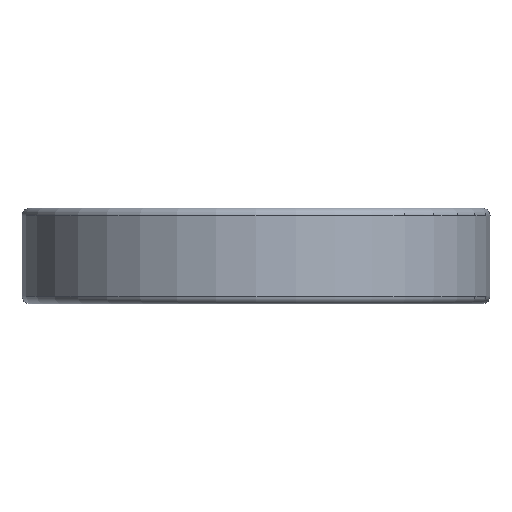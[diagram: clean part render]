
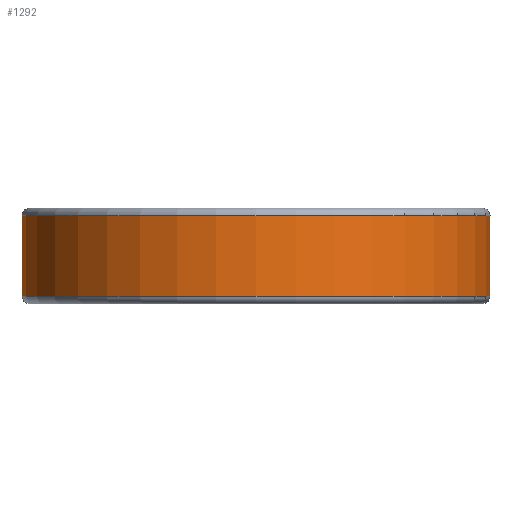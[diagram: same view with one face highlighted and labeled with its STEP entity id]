
A CAD part, left-side view. The second image highlights one B-rep face of the part: STEP entity #1292.
In plain terms, the highlighted cylindrical face has radius 46.5 mm (diameter 93 mm), a partial arc.
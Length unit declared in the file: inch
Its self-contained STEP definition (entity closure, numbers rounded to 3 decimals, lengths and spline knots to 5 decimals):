
#120=CARTESIAN_POINT('',(1.82964,-0.0625,
0.05984));
#129=DIRECTION('',(0.,0.,1.));
#130=VECTOR('',#129,0.62836);
#131=CARTESIAN_POINT('',(1.82964,-0.0625,
0.05984));
#132=LINE('',#131,#130);
#140=CARTESIAN_POINT('',(1.82964,-0.0625,
0.68819));
#201=CARTESIAN_POINT('',(1.82964,0.0625,0.68819));
#210=DIRECTION('',(0.,0.,-1.));
#211=VECTOR('',#210,0.62836);
#212=CARTESIAN_POINT('',(1.82964,0.0625,0.68819));
#213=LINE('',#212,#211);
#221=CARTESIAN_POINT('',(1.82964,0.0625,0.05984));
#345=CARTESIAN_POINT('',(0.,0.,0.68819));
#346=DIRECTION('',(0.,0.,1.));
#347=DIRECTION('',(0.999,0.034,0.));
#348=AXIS2_PLACEMENT_3D('',#345,#346,#347);
#350=DIRECTION('',(0.,0.,1.));
#351=VECTOR('',#350,0.05204);
#352=CARTESIAN_POINT('',(1.78847,0.391,0.21719));
#353=LINE('',#352,#351);
#354=CARTESIAN_POINT('',(1.555,0.96616,0.09277));
#355=CARTESIAN_POINT('',(1.57712,0.93056,0.09277));
#356=CARTESIAN_POINT('',(1.62164,0.85349,0.09795));
#357=CARTESIAN_POINT('',(1.68624,0.71852,0.12206));
#358=CARTESIAN_POINT('',(1.74398,0.56542,0.16178));
#359=CARTESIAN_POINT('',(1.77529,0.45125,0.19758));
#360=CARTESIAN_POINT('',(1.78847,0.391,0.21719));
#362=CARTESIAN_POINT('',(1.555,0.96616,0.09277));
#363=CARTESIAN_POINT('',(1.53655,0.99585,0.09277));
#364=CARTESIAN_POINT('',(1.49988,1.05111,0.09638));
#365=CARTESIAN_POINT('',(1.4468,1.12276,0.11245));
#366=CARTESIAN_POINT('',(1.39804,1.18264,0.13849));
#367=CARTESIAN_POINT('',(1.35587,1.23051,0.17299));
#368=CARTESIAN_POINT('',(1.32203,1.26661,0.21363));
#369=CARTESIAN_POINT('',(1.29729,1.29182,0.25783));
#370=CARTESIAN_POINT('',(1.28128,1.30763,0.30368));
#371=CARTESIAN_POINT('',(1.27335,1.31532,0.35105));
#372=CARTESIAN_POINT('',(1.27348,1.3152,0.39862));
#373=CARTESIAN_POINT('',(1.28167,1.30725,0.44582));
#374=CARTESIAN_POINT('',(1.29786,1.29125,0.49143));
#375=CARTESIAN_POINT('',(1.32269,1.26593,0.53534));
#376=CARTESIAN_POINT('',(1.35654,1.22977,0.57568));
#377=CARTESIAN_POINT('',(1.39862,1.18195,0.60991));
#378=CARTESIAN_POINT('',(1.44723,1.12219,0.63574));
#379=CARTESIAN_POINT('',(1.50011,1.05077,0.65168));
#380=CARTESIAN_POINT('',(1.53663,0.99573,0.65527));
#381=CARTESIAN_POINT('',(1.555,0.96616,0.65527));
#383=CARTESIAN_POINT('',(1.78847,0.391,0.53084));
#384=CARTESIAN_POINT('',(1.77529,0.45125,0.55045));
#385=CARTESIAN_POINT('',(1.74398,0.56541,0.58626));
#386=CARTESIAN_POINT('',(1.68624,0.71852,0.62597));
#387=CARTESIAN_POINT('',(1.62164,0.85349,0.65006));
#388=CARTESIAN_POINT('',(1.57712,0.93056,0.65527));
#389=CARTESIAN_POINT('',(1.555,0.96616,0.65527));
#391=DIRECTION('',(0.,0.,1.));
#392=VECTOR('',#391,0.05204);
#393=CARTESIAN_POINT('',(1.78847,0.391,0.47881));
#394=LINE('',#393,#392);
#395=DIRECTION('',(0.,0.,-1.));
#396=VECTOR('',#395,0.20958);
#397=CARTESIAN_POINT('',(1.78847,0.391,0.47881));
#398=LINE('',#397,#396);
#614=CARTESIAN_POINT('',(0.,0.,0.05984));
#615=DIRECTION('',(0.,0.,-1.));
#616=DIRECTION('',(0.999,-0.034,0.));
#617=AXIS2_PLACEMENT_3D('',#614,#615,#616);
#667=CARTESIAN_POINT('',(1.555,-0.96616,0.23802));
#668=CARTESIAN_POINT('',(1.5455,-0.98146,
0.23802));
#669=CARTESIAN_POINT('',(1.52688,-1.01042,0.24));
#670=CARTESIAN_POINT('',(1.50077,-1.04873,0.24832));
#671=CARTESIAN_POINT('',(1.47716,-1.08164,0.26143));
#672=CARTESIAN_POINT('',(1.45683,-1.1088,0.27866));
#673=CARTESIAN_POINT('',(1.4404,-1.13001,0.29924));
#674=CARTESIAN_POINT('',(1.42832,-1.14519,0.32232));
#675=CARTESIAN_POINT('',(1.4208,-1.15449,0.34725));
#676=CARTESIAN_POINT('',(1.41813,-1.15772,0.37366));
#677=CARTESIAN_POINT('',(1.42066,-1.15466,0.40004));
#678=CARTESIAN_POINT('',(1.42798,-1.14561,0.42482));
#679=CARTESIAN_POINT('',(1.43981,-1.13077,0.44788));
#680=CARTESIAN_POINT('',(1.45614,-1.10971,0.46867));
#681=CARTESIAN_POINT('',(1.47659,-1.08244,0.48623));
#682=CARTESIAN_POINT('',(1.50042,-1.04923,0.49959));
#683=CARTESIAN_POINT('',(1.52677,-1.01058,0.50802));
#684=CARTESIAN_POINT('',(1.54547,-0.9815,
0.51002));
#685=CARTESIAN_POINT('',(1.555,-0.96616,0.51002));
#687=CARTESIAN_POINT('',(1.555,-0.96616,0.51002));
#688=CARTESIAN_POINT('',(1.564,-0.95167,
0.51002));
#689=CARTESIAN_POINT('',(1.58085,-0.92365,
0.50825));
#690=CARTESIAN_POINT('',(1.6027,-0.88513,
0.50199));
#691=CARTESIAN_POINT('',(1.62153,-0.85004,
0.49319));
#692=CARTESIAN_POINT('',(1.63769,-0.81844,
0.48253));
#693=CARTESIAN_POINT('',(1.65147,-0.79023,
0.47044));
#694=CARTESIAN_POINT('',(1.66314,-0.76528,
0.45711));
#695=CARTESIAN_POINT('',(1.67291,-0.74365,
0.44254));
#696=CARTESIAN_POINT('',(1.68081,-0.72559,
0.4267));
#697=CARTESIAN_POINT('',(1.68668,-0.71173,
0.40959));
#698=CARTESIAN_POINT('',(1.69022,-0.70336,
0.39194));
#699=CARTESIAN_POINT('',(1.6914,-0.70059,
0.37385));
#700=CARTESIAN_POINT('',(1.69017,-0.70346,
0.3558));
#701=CARTESIAN_POINT('',(1.68661,-0.71188,
0.33819));
#702=CARTESIAN_POINT('',(1.68072,-0.7258,
0.32113));
#703=CARTESIAN_POINT('',(1.67281,-0.74386,
0.30533));
#704=CARTESIAN_POINT('',(1.66305,-0.76549,
0.2908));
#705=CARTESIAN_POINT('',(1.65137,-0.79041,
0.2775));
#706=CARTESIAN_POINT('',(1.63761,-0.8186,
0.26544));
#707=CARTESIAN_POINT('',(1.62147,-0.85018,
0.25481));
#708=CARTESIAN_POINT('',(1.60264,-0.88523,
0.24602));
#709=CARTESIAN_POINT('',(1.58081,-0.9237,
0.23978));
#710=CARTESIAN_POINT('',(1.56399,-0.95169,
0.23802));
#711=CARTESIAN_POINT('',(1.555,-0.96616,0.23802));
#749=VERTEX_POINT('',#120);
#750=VERTEX_POINT('',#140);
#765=VERTEX_POINT('',#201);
#767=VERTEX_POINT('',#221);
#788=CARTESIAN_POINT('',(1.78847,0.391,0.21719));
#789=CARTESIAN_POINT('',(1.78847,0.391,0.26923));
#790=VERTEX_POINT('',#788);
#791=VERTEX_POINT('',#789);
#792=VERTEX_POINT('',#354);
#793=VERTEX_POINT('',#383);
#794=VERTEX_POINT('',#389);
#795=CARTESIAN_POINT('',(1.78847,0.391,0.47881));
#796=VERTEX_POINT('',#795);
#797=VERTEX_POINT('',#667);
#798=VERTEX_POINT('',#685);
#1260=CARTESIAN_POINT('',(0.,0.,0.74803));
#1261=DIRECTION('',(0.,0.,-1.));
#1262=DIRECTION('',(-1.,0.,0.));
#1263=AXIS2_PLACEMENT_3D('',#1260,#1261,#1262);
#1264=CYLINDRICAL_SURFACE('',#1263,1.83071);
#1266=ORIENTED_EDGE('',*,*,#1265,.T.);
#1267=ORIENTED_EDGE('',*,*,#1052,.F.);
#1268=ORIENTED_EDGE('',*,*,#1244,.T.);
#1269=ORIENTED_EDGE('',*,*,#971,.F.);
#1270=EDGE_LOOP('',(#1266,#1267,#1268,#1269));
#1271=FACE_OUTER_BOUND('',#1270,.F.);
#1273=ORIENTED_EDGE('',*,*,#1272,.F.);
#1275=ORIENTED_EDGE('',*,*,#1274,.F.);
#1277=ORIENTED_EDGE('',*,*,#1276,.T.);
#1279=ORIENTED_EDGE('',*,*,#1278,.F.);
#1281=ORIENTED_EDGE('',*,*,#1280,.F.);
#1283=ORIENTED_EDGE('',*,*,#1282,.T.);
#1284=EDGE_LOOP('',(#1273,#1275,#1277,#1279,#1281,#1283));
#1285=FACE_BOUND('',#1284,.F.);
#1287=ORIENTED_EDGE('',*,*,#1286,.F.);
#1289=ORIENTED_EDGE('',*,*,#1288,.F.);
#1290=EDGE_LOOP('',(#1287,#1289));
#1291=FACE_BOUND('',#1290,.F.);
#349=CIRCLE('',#348,1.83071);
#361=B_SPLINE_CURVE_WITH_KNOTS('',3,(#354,#355,#356,#357,#358,#359,#360),
.UNSPECIFIED.,.F.,.F.,(4,1,1,1,4),(0.,0.25,0.5,0.75,1.),
.UNSPECIFIED.);
#382=B_SPLINE_CURVE_WITH_KNOTS('',3,(#362,#363,#364,#365,#366,#367,#368,#369,
#370,#371,#372,#373,#374,#375,#376,#377,#378,#379,#380,#381),.UNSPECIFIED.,.F.,
.F.,(4,1,1,1,1,1,1,1,1,1,1,1,1,1,1,1,1,4),(0.,0.05882,
0.11765,0.17647,0.23529,0.29412,
0.35294,0.41176,0.47059,0.52941,
0.58824,0.64706,0.70588,0.76471,
0.82353,0.88235,0.94118,1.),.UNSPECIFIED.);
#390=B_SPLINE_CURVE_WITH_KNOTS('',3,(#383,#384,#385,#386,#387,#388,#389),
.UNSPECIFIED.,.F.,.F.,(4,1,1,1,4),(0.,0.25,0.5,0.75,1.),
.UNSPECIFIED.);
#618=CIRCLE('',#617,1.83071);
#686=B_SPLINE_CURVE_WITH_KNOTS('',3,(#667,#668,#669,#670,#671,#672,#673,#674,
#675,#676,#677,#678,#679,#680,#681,#682,#683,#684,#685),.UNSPECIFIED.,.F.,.F.,
(4,1,1,1,1,1,1,1,1,1,1,1,1,1,1,1,4),(0.,0.0625,0.125,0.1875,0.25,
0.3125,0.375,0.4375,0.5,0.5625,0.625,0.6875,0.75,0.8125,
0.875,0.9375,1.),.UNSPECIFIED.);
#712=B_SPLINE_CURVE_WITH_KNOTS('',3,(#687,#688,#689,#690,#691,#692,#693,#694,
#695,#696,#697,#698,#699,#700,#701,#702,#703,#704,#705,#706,#707,#708,#709,#710,
#711),.UNSPECIFIED.,.F.,.F.,(4,1,1,1,1,1,1,1,1,1,1,1,1,1,1,1,1,1,1,1,1,1,4),(
0.,0.04545,0.09091,0.13636,0.18182,
0.22727,0.27273,0.31818,0.36364,
0.40909,0.45455,0.5,0.54545,0.59091,
0.63636,0.68182,0.72727,0.77273,
0.81818,0.86364,0.90909,0.95455,1.),
.UNSPECIFIED.);
#971=EDGE_CURVE('',#749,#750,#132,.T.);
#1052=EDGE_CURVE('',#765,#767,#213,.T.);
#1244=EDGE_CURVE('',#765,#750,#349,.T.);
#1265=EDGE_CURVE('',#749,#767,#618,.T.);
#1272=EDGE_CURVE('',#790,#791,#353,.T.);
#1274=EDGE_CURVE('',#792,#790,#361,.T.);
#1276=EDGE_CURVE('',#792,#794,#382,.T.);
#1278=EDGE_CURVE('',#793,#794,#390,.T.);
#1280=EDGE_CURVE('',#796,#793,#394,.T.);
#1282=EDGE_CURVE('',#796,#791,#398,.T.);
#1286=EDGE_CURVE('',#797,#798,#686,.T.);
#1288=EDGE_CURVE('',#798,#797,#712,.T.);
#1292=ADVANCED_FACE('',(#1271,#1285,#1291),#1264,.T.);
